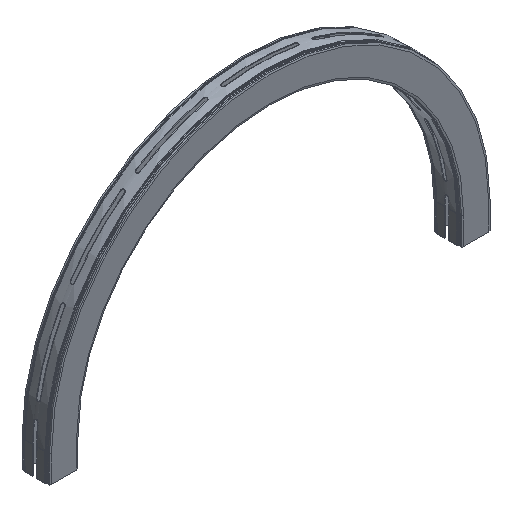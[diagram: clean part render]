
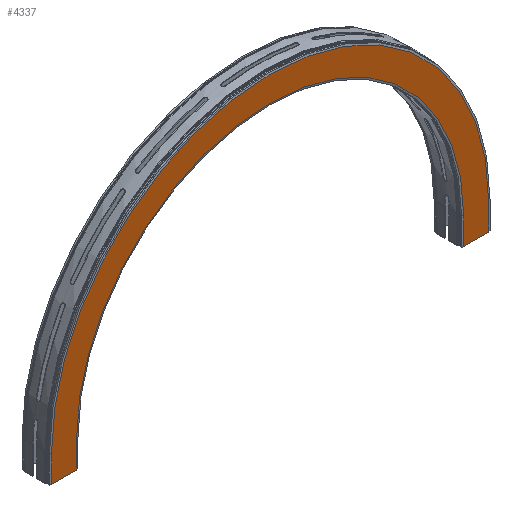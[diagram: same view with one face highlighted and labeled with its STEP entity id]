
A CAD part, isometric view. The second image highlights one B-rep face of the part: STEP entity #4337.
In plain terms, the highlighted planar face has unit normal (0, -1, 0).
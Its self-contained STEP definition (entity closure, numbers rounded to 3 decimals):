
#495=FACE_OUTER_BOUND('',#751,.T.);
#751=EDGE_LOOP('',(#3961,#3962,#3963,#3964,#3965,#3966,#3967,#3968));
#885=CIRCLE('',#4662,636.5);
#888=CIRCLE('',#4668,563.5);
#1258=LINE('',#8897,#1656);
#1263=LINE('',#8906,#1661);
#1265=LINE('',#8911,#1663);
#1280=LINE('',#8951,#1678);
#1285=LINE('',#8962,#1683);
#1286=LINE('',#8964,#1684);
#1656=VECTOR('',#5631,10.);
#1661=VECTOR('',#5638,10.);
#1663=VECTOR('',#5642,10.);
#1678=VECTOR('',#5683,10.);
#1683=VECTOR('',#5696,10.);
#1684=VECTOR('',#5699,10.);
#2076=VERTEX_POINT('',#8894);
#2077=VERTEX_POINT('',#8896);
#2080=VERTEX_POINT('',#8903);
#2081=VERTEX_POINT('',#8908);
#2091=VERTEX_POINT('',#8934);
#2093=VERTEX_POINT('',#8944);
#2094=VERTEX_POINT('',#8949);
#2096=VERTEX_POINT('',#8960);
#2688=EDGE_CURVE('',#2077,#2076,#1258,.T.);
#2693=EDGE_CURVE('',#2077,#2080,#1263,.T.);
#2695=EDGE_CURVE('',#2076,#2081,#1265,.T.);
#2708=EDGE_CURVE('',#2081,#2091,#885,.T.);
#2714=EDGE_CURVE('',#2080,#2093,#888,.T.);
#2716=EDGE_CURVE('',#2091,#2094,#1280,.T.);
#2721=EDGE_CURVE('',#2093,#2096,#1285,.T.);
#2722=EDGE_CURVE('',#2094,#2096,#1286,.T.);
#3961=ORIENTED_EDGE('',*,*,#2722,.T.);
#3962=ORIENTED_EDGE('',*,*,#2721,.F.);
#3963=ORIENTED_EDGE('',*,*,#2714,.F.);
#3964=ORIENTED_EDGE('',*,*,#2693,.F.);
#3965=ORIENTED_EDGE('',*,*,#2688,.T.);
#3966=ORIENTED_EDGE('',*,*,#2695,.T.);
#3967=ORIENTED_EDGE('',*,*,#2708,.T.);
#3968=ORIENTED_EDGE('',*,*,#2716,.T.);
#4114=PLANE('',#4674);
#4337=ADVANCED_FACE('',(#495),#4114,.T.);
#4662=AXIS2_PLACEMENT_3D('',#8936,#5663,#5664);
#4668=AXIS2_PLACEMENT_3D('',#8947,#5678,#5679);
#4674=AXIS2_PLACEMENT_3D('',#8963,#5697,#5698);
#5631=DIRECTION('',(1.,0.,0.));
#5638=DIRECTION('',(0.,0.,1.));
#5642=DIRECTION('',(0.,0.,1.));
#5663=DIRECTION('center_axis',(0.,-1.,0.));
#5664=DIRECTION('ref_axis',(1.,0.,0.));
#5678=DIRECTION('center_axis',(0.,-1.,0.));
#5679=DIRECTION('ref_axis',(1.,0.,0.));
#5683=DIRECTION('',(0.,0.,-1.));
#5696=DIRECTION('',(0.,0.,-1.));
#5697=DIRECTION('center_axis',(0.,-1.,0.));
#5698=DIRECTION('ref_axis',(0.,0.,
1.));
#5699=DIRECTION('',(1.,0.,0.));
#8894=CARTESIAN_POINT('',(36.5,-11.,0.));
#8896=CARTESIAN_POINT('',(-36.5,-11.,0.));
#8897=CARTESIAN_POINT('',(-36.5,-11.,0.));
#8903=CARTESIAN_POINT('',(-36.5,-11.,80.));
#8906=CARTESIAN_POINT('',(-36.5,-11.,0.));
#8908=CARTESIAN_POINT('',(36.5,-11.,80.));
#8911=CARTESIAN_POINT('',(36.5,-11.,0.));
#8934=CARTESIAN_POINT('',(-1236.5,-11.,80.));
#8936=CARTESIAN_POINT('Origin',(-600.,-11.,80.));
#8944=CARTESIAN_POINT('',(-1163.5,-11.,80.));
#8947=CARTESIAN_POINT('Origin',(-600.,-11.,80.));
#8949=CARTESIAN_POINT('',(-1236.5,-11.,0.));
#8951=CARTESIAN_POINT('',(-1236.5,-11.,2044.956));
#8960=CARTESIAN_POINT('',(-1163.5,-11.,0.));
#8962=CARTESIAN_POINT('',(-1163.5,-11.,2044.956));
#8963=CARTESIAN_POINT('Origin',(-1236.5,-11.,2044.956));
#8964=CARTESIAN_POINT('',(-1219.75,-11.,0.));
